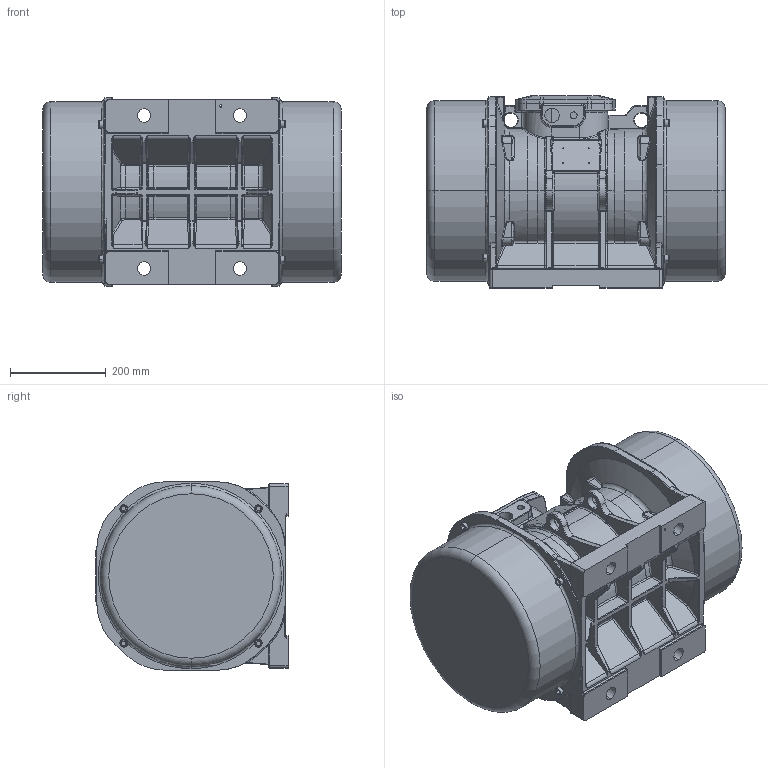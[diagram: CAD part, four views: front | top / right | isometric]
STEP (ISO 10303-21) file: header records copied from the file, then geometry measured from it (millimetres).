
FILE_DESCRIPTION (( 'STEP AP203' ), '1' );
FILE_NAME ('(MVE6500-3-36_MVE900-3-36_MVE7200-15-18_MVE9000-15-18_MVE5200-12)-85A0_(MVE6500-3-36_MVE9000-3-36_MVE7200-15-18_MVE9000-15-18)-86A0.STEP', '2018-06-08T12:38:40', ( 'dma' ), ( '' ), 'SwSTEP 2.0', 'SolidWorks 2016', '' );
FILE_SCHEMA (( 'CONFIG_CONTROL_DESIGN' ));
Products named in the file (1): (MVE6500-3-36_MVE900-3-36_MVE7200-15-18_MVE9000-15-18_MVE5200-12)-85A0_(MVE6500-3-36_MVE9000-3-36_MVE7200-15-18_MVE9000-15-18)-86A0
Bounding box: 624 x 402 x 394 mm (x, y, z)
Volume: 57967890.9 mm3; surface area: 1469242.3 mm2
Topology: 1 solids, 1 shells, 1836 faces, 4359 edges, 2458 vertices
Faces by surface type: cylinder 626, bspline 385, plane 354, torus 341, sphere 85, cone 45
Entity records: 66656 total; most frequent: CARTESIAN_POINT 27421, ORIENTED_EDGE 8508, DIRECTION 8086, EDGE_CURVE 4254, AXIS2_PLACEMENT_3D 3327, VERTEX_POINT 2447, EDGE_LOOP 1885, CIRCLE 1875
